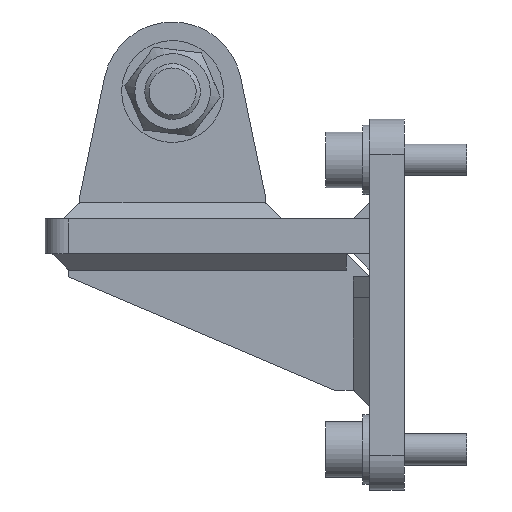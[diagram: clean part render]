
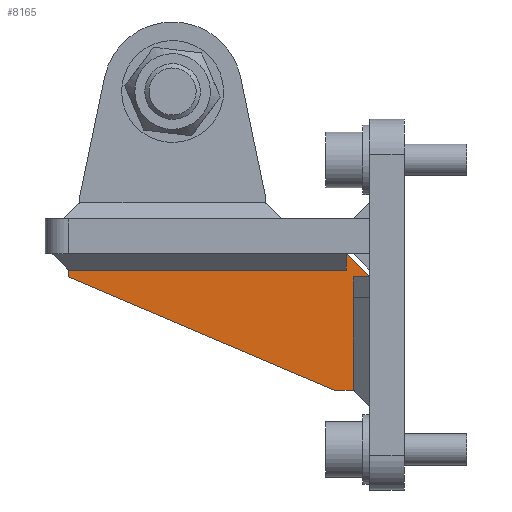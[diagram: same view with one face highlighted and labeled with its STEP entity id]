
A CAD part, left-side view. The second image highlights one B-rep face of the part: STEP entity #8165.
In plain terms, the highlighted planar face has unit normal (-1, 0, 0).
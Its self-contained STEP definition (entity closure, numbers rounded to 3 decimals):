
#413 = DIRECTION ( 'NONE',  ( 0., 0., -1. ) ) ;
#576 = CARTESIAN_POINT ( 'NONE',  ( -53.5, -10., -20. ) ) ;
#643 = CARTESIAN_POINT ( 'NONE',  ( -53.5, 15., -59. ) ) ;
#754 = LINE ( 'NONE', #576, #13354 ) ;
#874 = EDGE_CURVE ( 'NONE', #6231, #10733, #9476, .T. ) ;
#980 = VERTEX_POINT ( 'NONE', #643 ) ;
#1149 = ORIENTED_EDGE ( 'NONE', *, *, #2569, .F. ) ;
#1222 = ORIENTED_EDGE ( 'NONE', *, *, #15090, .F. ) ;
#1454 = DIRECTION ( 'NONE',  ( 0., -1., 0. ) ) ;
#1935 = CARTESIAN_POINT ( 'NONE',  ( -53.5, 0., -10. ) ) ;
#2304 = EDGE_LOOP ( 'NONE', ( #1222, #8952, #7903, #14317, #8184, #7870, #6608, #7889, #9373, #8360, #1149, #3995 ) ) ;
#2324 = CARTESIAN_POINT ( 'NONE',  ( -53.5, -2., -49. ) ) ;
#2472 = DIRECTION ( 'NONE',  ( 0., -1., 0. ) ) ;
#2539 = LINE ( 'NONE', #6218, #5239 ) ;
#2569 = EDGE_CURVE ( 'NONE', #7942, #12032, #6825, .T. ) ;
#2671 = LINE ( 'NONE', #7635, #10855 ) ;
#2800 = VERTEX_POINT ( 'NONE', #1935 ) ;
#2916 = AXIS2_PLACEMENT_3D ( 'NONE', #7839, #5500, #10404 ) ;
#2974 = VERTEX_POINT ( 'NONE', #3487 ) ;
#3041 = EDGE_CURVE ( 'NONE', #12176, #2800, #5292, .T. ) ;
#3487 = CARTESIAN_POINT ( 'NONE',  ( -53.5, -10., -20. ) ) ;
#3672 = CIRCLE ( 'NONE', #2916, 2. ) ;
#3946 = CARTESIAN_POINT ( 'NONE',  ( -53.5, 0., -20. ) ) ;
#3981 = CARTESIAN_POINT ( 'NONE',  ( -53.5, -2., -20. ) ) ;
#3995 = ORIENTED_EDGE ( 'NONE', *, *, #4494, .F. ) ;
#4142 = VECTOR ( 'NONE', #11782, 1000. ) ;
#4234 = VERTEX_POINT ( 'NONE', #3981 ) ;
#4331 = DIRECTION ( 'NONE',  ( -1., 0., 0. ) ) ;
#4494 = EDGE_CURVE ( 'NONE', #2974, #7942, #754, .T. ) ;
#4796 = CARTESIAN_POINT ( 'NONE',  ( -53.5, 130., 0. ) ) ;
#4936 = CARTESIAN_POINT ( 'NONE',  ( -53.5, 0., -20. ) ) ;
#5223 = DIRECTION ( 'NONE',  ( 1., 0., 0. ) ) ;
#5239 = VECTOR ( 'NONE', #2472, 1000. ) ;
#5292 = LINE ( 'NONE', #13881, #13500 ) ;
#5500 = DIRECTION ( 'NONE',  ( 1., 0., 0. ) ) ;
#5697 = CARTESIAN_POINT ( 'NONE',  ( -53.5, -10., -34.5 ) ) ;
#5831 = VECTOR ( 'NONE', #14207, 1000. ) ;
#6062 = DIRECTION ( 'NONE',  ( 0., 0., 1. ) ) ;
#6156 = LINE ( 'NONE', #4936, #9553 ) ;
#6218 = CARTESIAN_POINT ( 'NONE',  ( -53.5, 0., -20. ) ) ;
#6231 = VERTEX_POINT ( 'NONE', #11376 ) ;
#6391 = CARTESIAN_POINT ( 'NONE',  ( -53.5, 10., 0. ) ) ;
#6489 = CARTESIAN_POINT ( 'NONE',  ( -53.5, 130., -10. ) ) ;
#6513 = FACE_OUTER_BOUND ( 'NONE', #2304, .T. ) ;
#6608 = ORIENTED_EDGE ( 'NONE', *, *, #9754, .F. ) ;
#6742 = CARTESIAN_POINT ( 'NONE',  ( -53.5, 0., -49. ) ) ;
#6825 = LINE ( 'NONE', #6742, #5831 ) ;
#6831 = CIRCLE ( 'NONE', #14265, 2. ) ;
#6998 = DIRECTION ( 'NONE',  ( 0., 0., 1. ) ) ;
#7635 = CARTESIAN_POINT ( 'NONE',  ( -53.5, 10., 0. ) ) ;
#7839 = CARTESIAN_POINT ( 'NONE',  ( -53.5, 0., -49. ) ) ;
#7870 = ORIENTED_EDGE ( 'NONE', *, *, #13276, .F. ) ;
#7889 = ORIENTED_EDGE ( 'NONE', *, *, #10329, .F. ) ;
#7903 = ORIENTED_EDGE ( 'NONE', *, *, #9986, .F. ) ;
#7942 = VERTEX_POINT ( 'NONE', #12303 ) ;
#7986 = VECTOR ( 'NONE', #12448, 1000. ) ;
#8075 = EDGE_CURVE ( 'NONE', #4234, #10663, #6831, .T. ) ;
#8165 = ADVANCED_FACE ( 'NONE', ( #6513 ), #15160, .T. ) ;
#8184 = ORIENTED_EDGE ( 'NONE', *, *, #10025, .F. ) ;
#8360 = ORIENTED_EDGE ( 'NONE', *, *, #13221, .T. ) ;
#8926 = DIRECTION ( 'NONE',  ( 0., 0., -1. ) ) ;
#8952 = ORIENTED_EDGE ( 'NONE', *, *, #8075, .T. ) ;
#9373 = ORIENTED_EDGE ( 'NONE', *, *, #874, .F. ) ;
#9476 = LINE ( 'NONE', #13159, #15200 ) ;
#9503 = LINE ( 'NONE', #9740, #14189 ) ;
#9553 = VECTOR ( 'NONE', #9855, 1000. ) ;
#9740 = CARTESIAN_POINT ( 'NONE',  ( -53.5, 130., 0. ) ) ;
#9754 = EDGE_CURVE ( 'NONE', #980, #9776, #14818, .T. ) ;
#9776 = VERTEX_POINT ( 'NONE', #6489 ) ;
#9855 = DIRECTION ( 'NONE',  ( 0., 0., -1. ) ) ;
#9986 = EDGE_CURVE ( 'NONE', #2800, #10663, #6156, .T. ) ;
#10025 = EDGE_CURVE ( 'NONE', #11752, #12176, #2671, .T. ) ;
#10329 = EDGE_CURVE ( 'NONE', #10733, #980, #10571, .T. ) ;
#10404 = DIRECTION ( 'NONE',  ( 0., 0., -1. ) ) ;
#10571 = LINE ( 'NONE', #11461, #4142 ) ;
#10663 = VERTEX_POINT ( 'NONE', #13916 ) ;
#10733 = VERTEX_POINT ( 'NONE', #11757 ) ;
#10855 = VECTOR ( 'NONE', #1454, 1000. ) ;
#11376 = CARTESIAN_POINT ( 'NONE',  ( -53.5, 0., -51. ) ) ;
#11461 = CARTESIAN_POINT ( 'NONE',  ( -53.5, 0., -59. ) ) ;
#11752 = VERTEX_POINT ( 'NONE', #4796 ) ;
#11757 = CARTESIAN_POINT ( 'NONE',  ( -53.5, 0., -59. ) ) ;
#11782 = DIRECTION ( 'NONE',  ( 0., 1., 0. ) ) ;
#12032 = VERTEX_POINT ( 'NONE', #2324 ) ;
#12176 = VERTEX_POINT ( 'NONE', #6391 ) ;
#12303 = CARTESIAN_POINT ( 'NONE',  ( -53.5, -10., -49. ) ) ;
#12448 = DIRECTION ( 'NONE',  ( 0., 0.92, 0.392 ) ) ;
#13159 = CARTESIAN_POINT ( 'NONE',  ( -53.5, 0., -59. ) ) ;
#13221 = EDGE_CURVE ( 'NONE', #6231, #12032, #3672, .T. ) ;
#13276 = EDGE_CURVE ( 'NONE', #9776, #11752, #9503, .T. ) ;
#13354 = VECTOR ( 'NONE', #8926, 1000. ) ;
#13500 = VECTOR ( 'NONE', #14990, 1000. ) ;
#13621 = CARTESIAN_POINT ( 'NONE',  ( -53.5, 130., -10. ) ) ;
#13881 = CARTESIAN_POINT ( 'NONE',  ( -53.5, 0., -10. ) ) ;
#13916 = CARTESIAN_POINT ( 'NONE',  ( -53.5, 0., -18. ) ) ;
#14189 = VECTOR ( 'NONE', #6062, 1000. ) ;
#14207 = DIRECTION ( 'NONE',  ( 0., 1., 0. ) ) ;
#14265 = AXIS2_PLACEMENT_3D ( 'NONE', #3946, #5223, #413 ) ;
#14317 = ORIENTED_EDGE ( 'NONE', *, *, #3041, .F. ) ;
#14497 = AXIS2_PLACEMENT_3D ( 'NONE', #5697, #4331, #6998 ) ;
#14818 = LINE ( 'NONE', #13621, #7986 ) ;
#14990 = DIRECTION ( 'NONE',  ( 0., -0.707, -0.707 ) ) ;
#15090 = EDGE_CURVE ( 'NONE', #4234, #2974, #2539, .T. ) ;
#15160 = PLANE ( 'NONE',  #14497 ) ;
#15200 = VECTOR ( 'NONE', #15492, 1000. ) ;
#15492 = DIRECTION ( 'NONE',  ( 0., 0., -1. ) ) ;
